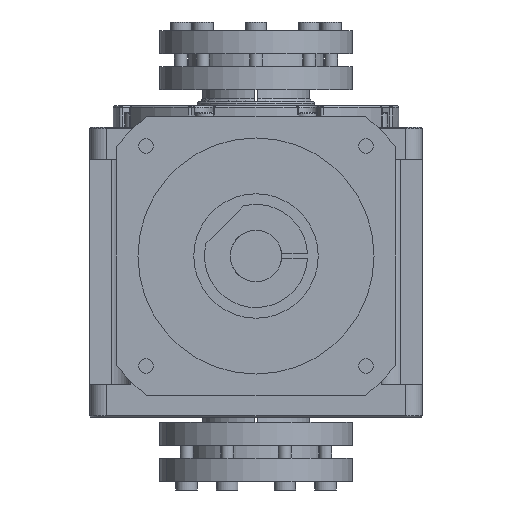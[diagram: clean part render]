
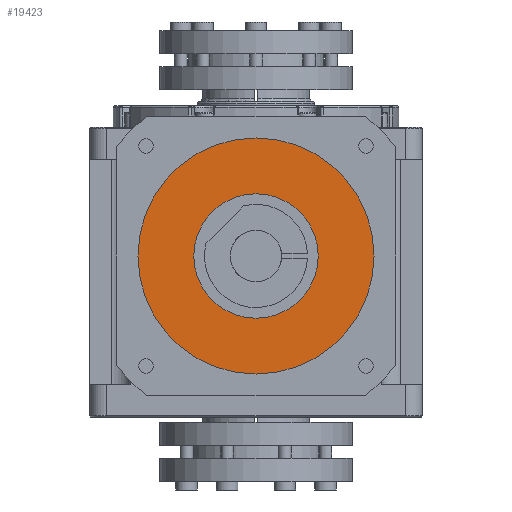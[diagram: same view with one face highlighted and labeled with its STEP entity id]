
A CAD part, front view. The second image highlights one B-rep face of the part: STEP entity #19423.
In plain terms, the highlighted planar face has unit normal (0, -1, 0) as drawn and (0, 0, -1) by its records, which use the part's own axes.
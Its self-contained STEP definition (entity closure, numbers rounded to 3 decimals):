
#301 = DIRECTION ( 'NONE',  ( 0., 0., -1. ) ) ;
#2661 = AXIS2_PLACEMENT_3D ( 'NONE', #17955, #10642, #10069 ) ;
#3864 = EDGE_LOOP ( 'NONE', ( #10335, #6012 ) ) ;
#4398 = EDGE_CURVE ( 'NONE', #22313, #15970, #20063, .T. ) ;
#4630 = DIRECTION ( 'NONE',  ( 0., 0., -1. ) ) ;
#5787 = CARTESIAN_POINT ( 'NONE',  ( 55., 0., -151. ) ) ;
#6012 = ORIENTED_EDGE ( 'NONE', *, *, #15955, .T. ) ;
#6229 = ORIENTED_EDGE ( 'NONE', *, *, #4398, .F. ) ;
#7640 = CARTESIAN_POINT ( 'NONE',  ( -29., 0., -151. ) ) ;
#8051 = PLANE ( 'NONE',  #19996 ) ;
#8337 = CIRCLE ( 'NONE', #10215, 55. ) ;
#8445 = DIRECTION ( 'NONE',  ( 0., 0., -1. ) ) ;
#9112 = EDGE_LOOP ( 'NONE', ( #6229, #21234 ) ) ;
#10069 = DIRECTION ( 'NONE',  ( -1., 0., 0. ) ) ;
#10215 = AXIS2_PLACEMENT_3D ( 'NONE', #18037, #301, #16047 ) ;
#10335 = ORIENTED_EDGE ( 'NONE', *, *, #22570, .T. ) ;
#10642 = DIRECTION ( 'NONE',  ( 0., 0., -1. ) ) ;
#10834 = AXIS2_PLACEMENT_3D ( 'NONE', #13795, #8445, #15684 ) ;
#11012 = AXIS2_PLACEMENT_3D ( 'NONE', #15397, #16930, #13624 ) ;
#13624 = DIRECTION ( 'NONE',  ( -1., 0., 0. ) ) ;
#13795 = CARTESIAN_POINT ( 'NONE',  ( 0., 0., -151. ) ) ;
#14026 = CARTESIAN_POINT ( 'NONE',  ( 29., 0., -151. ) ) ;
#14437 = VERTEX_POINT ( 'NONE', #15709 ) ;
#15397 = CARTESIAN_POINT ( 'NONE',  ( 0., 0., -151. ) ) ;
#15546 = DIRECTION ( 'NONE',  ( -1., 0., 0. ) ) ;
#15684 = DIRECTION ( 'NONE',  ( -1., 0., 0. ) ) ;
#15709 = CARTESIAN_POINT ( 'NONE',  ( -55., 0., -151. ) ) ;
#15955 = EDGE_CURVE ( 'NONE', #21939, #14437, #21025, .T. ) ;
#15970 = VERTEX_POINT ( 'NONE', #14026 ) ;
#16047 = DIRECTION ( 'NONE',  ( -1., 0., 0. ) ) ;
#16930 = DIRECTION ( 'NONE',  ( 0., 0., -1. ) ) ;
#17303 = FACE_OUTER_BOUND ( 'NONE', #3864, .T. ) ;
#17955 = CARTESIAN_POINT ( 'NONE',  ( 0., 0., -151. ) ) ;
#18037 = CARTESIAN_POINT ( 'NONE',  ( 0., 0., -151. ) ) ;
#18957 = FACE_BOUND ( 'NONE', #9112, .T. ) ;
#19423 = ADVANCED_FACE ( 'NONE', ( #18957, #17303 ), #8051, .T. ) ;
#19996 = AXIS2_PLACEMENT_3D ( 'NONE', #20855, #4630, #15546 ) ;
#20063 = CIRCLE ( 'NONE', #2661, 29. ) ;
#20855 = CARTESIAN_POINT ( 'NONE',  ( 0., 0., -151. ) ) ;
#20975 = EDGE_CURVE ( 'NONE', #15970, #22313, #21193, .T. ) ;
#21025 = CIRCLE ( 'NONE', #10834, 55. ) ;
#21193 = CIRCLE ( 'NONE', #11012, 29. ) ;
#21234 = ORIENTED_EDGE ( 'NONE', *, *, #20975, .F. ) ;
#21939 = VERTEX_POINT ( 'NONE', #5787 ) ;
#22313 = VERTEX_POINT ( 'NONE', #7640 ) ;
#22570 = EDGE_CURVE ( 'NONE', #14437, #21939, #8337, .T. ) ;
